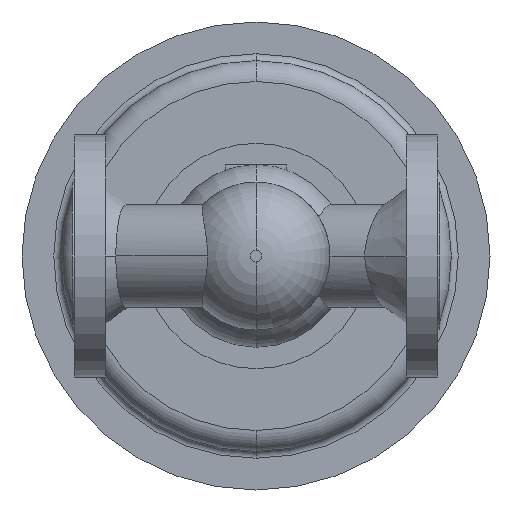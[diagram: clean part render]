
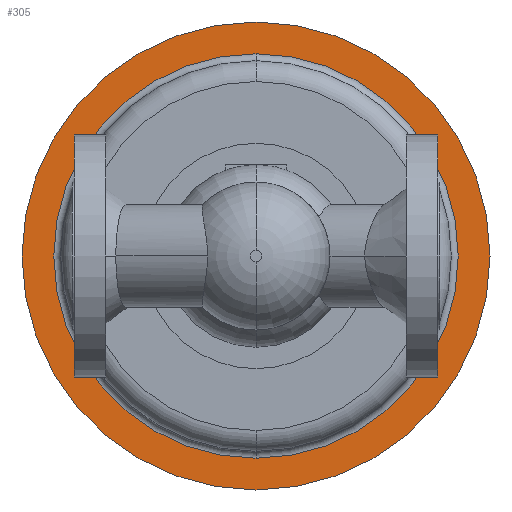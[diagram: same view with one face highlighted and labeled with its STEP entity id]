
A CAD part, front view. The second image highlights one B-rep face of the part: STEP entity #305.
In plain terms, the highlighted planar face has unit normal (0, -1, 0).
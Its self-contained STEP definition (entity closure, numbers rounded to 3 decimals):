
#305 = ADVANCED_FACE( '', ( #733, #734 ), #735, .T. );
#733 = FACE_OUTER_BOUND( '', #1170, .T. );
#734 = FACE_BOUND( '', #1171, .T. );
#735 = PLANE( '', #1172 );
#1170 = EDGE_LOOP( '', ( #2643, #2644 ) );
#1171 = EDGE_LOOP( '', ( #2645, #2646, #2647 ) );
#1172 = AXIS2_PLACEMENT_3D( '', #2648, #2649, #2650 );
#2643 = ORIENTED_EDGE( '', *, *, #3037, .F. );
#2644 = ORIENTED_EDGE( '', *, *, #3166, .F. );
#2645 = ORIENTED_EDGE( '', *, *, #3164, .T. );
#2646 = ORIENTED_EDGE( '', *, *, #3044, .T. );
#2647 = ORIENTED_EDGE( '', *, *, #3165, .T. );
#2648 = CARTESIAN_POINT( '', ( 347.75, 599.5, 0. ) );
#2649 = DIRECTION( '', ( 0., -1., 0. ) );
#2650 = DIRECTION( '', ( -1., 0., 0. ) );
#3037 = EDGE_CURVE( '', #3735, #3738, #3739, .T. );
#3044 = EDGE_CURVE( '', #3744, #3750, #3752, .T. );
#3164 = EDGE_CURVE( '', #3950, #3744, #3951, .T. );
#3165 = EDGE_CURVE( '', #3750, #3950, #3952, .T. );
#3166 = EDGE_CURVE( '', #3738, #3735, #3953, .T. );
#3735 = VERTEX_POINT( '', #5268 );
#3738 = VERTEX_POINT( '', #5272 );
#3739 = CIRCLE( '', #5273, 202.5 );
#3744 = VERTEX_POINT( '', #5279 );
#3750 = VERTEX_POINT( '', #5285 );
#3752 = CIRCLE( '', #5287, 175. );
#3950 = VERTEX_POINT( '', #5545 );
#3951 = CIRCLE( '', #5546, 175. );
#3952 = CIRCLE( '', #5547, 175. );
#3953 = CIRCLE( '', #5548, 202.5 );
#5268 = CARTESIAN_POINT( '', ( 361.5, 599.5, 0. ) );
#5272 = CARTESIAN_POINT( '', ( -43.5, 599.5, 0. ) );
#5273 = AXIS2_PLACEMENT_3D( '', #6233, #6234, #6235 );
#5279 = CARTESIAN_POINT( '', ( 159., 599.5, -175. ) );
#5285 = CARTESIAN_POINT( '', ( 159., 599.5, 175. ) );
#5287 = AXIS2_PLACEMENT_3D( '', #6252, #6253, #6254 );
#5545 = CARTESIAN_POINT( '', ( 334., 599.5, 0. ) );
#5546 = AXIS2_PLACEMENT_3D( '', #6492, #6493, #6494 );
#5547 = AXIS2_PLACEMENT_3D( '', #6495, #6496, #6497 );
#5548 = AXIS2_PLACEMENT_3D( '', #6498, #6499, #6500 );
#6233 = CARTESIAN_POINT( '', ( 159., 599.5, 0. ) );
#6234 = DIRECTION( '', ( 0., 1., 0. ) );
#6235 = DIRECTION( '', ( 1., 0., 0. ) );
#6252 = CARTESIAN_POINT( '', ( 159., 599.5, 0. ) );
#6253 = DIRECTION( '', ( 0., 1., 0. ) );
#6254 = DIRECTION( '', ( 1., 0., 0. ) );
#6492 = CARTESIAN_POINT( '', ( 159., 599.5, 0. ) );
#6493 = DIRECTION( '', ( 0., 1., 0. ) );
#6494 = DIRECTION( '', ( 1., 0., 0. ) );
#6495 = CARTESIAN_POINT( '', ( 159., 599.5, 0. ) );
#6496 = DIRECTION( '', ( 0., 1., 0. ) );
#6497 = DIRECTION( '', ( 1., 0., 0. ) );
#6498 = CARTESIAN_POINT( '', ( 159., 599.5, 0. ) );
#6499 = DIRECTION( '', ( 0., 1., 0. ) );
#6500 = DIRECTION( '', ( 1., 0., 0. ) );
